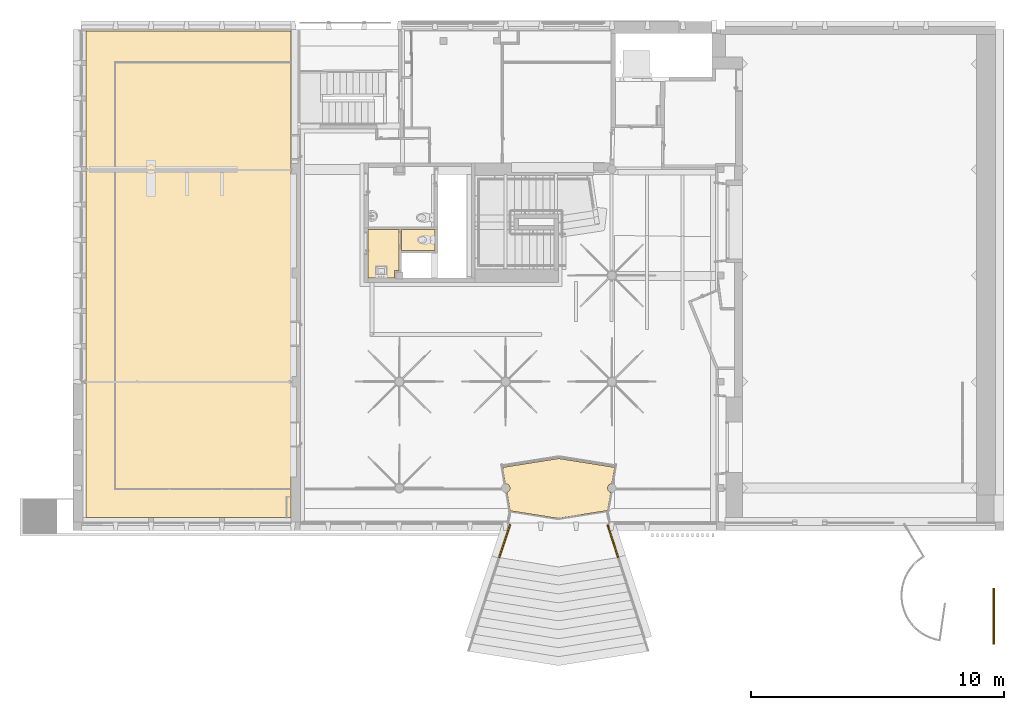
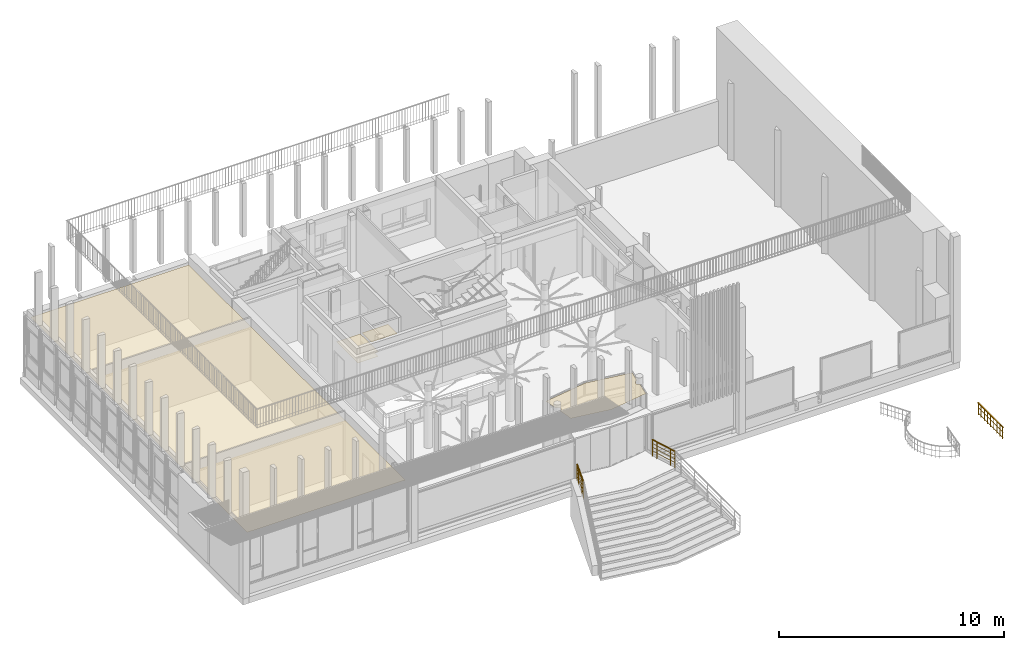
# One storey, part 51 of 65: 4 coverings, 3 railings.
"""IFC4 building model written with IfcOpenShell, lengths in metres."""

from ifc_helpers import new_model, entity, si_unit, converted_unit, derived_unit, direction, frame, origin, place, context, subcontext, project, spatial, indexed_curve, outline, extrude, polygons, material, layer, layer_set, constituent, constituent_set, type_object, element, save


model = new_model("IFC4")

# Units and contexts
model_context = context("Model", 3, precision=1e-05, world=origin(), true_north=direction((6.12303176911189e-17, 1.0)))
body_context = subcontext(model_context, "Body", "Model", "MODEL_VIEW")
ifc_project = project(units=[si_unit("LENGTHUNIT", "METRE"), si_unit("AREAUNIT", "SQUARE_METRE"), si_unit("VOLUMEUNIT", "CUBIC_METRE"), converted_unit("PLANEANGLEUNIT", "DEGREE", entity("IfcRatioMeasure", 0.0174532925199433), si_unit("PLANEANGLEUNIT", "RADIAN"), dimensions=[0, 0, 0, 0, 0, 0, 0]), si_unit("MASSUNIT", "GRAM", prefix="KILO"), derived_unit("MASSDENSITYUNIT", [(si_unit("MASSUNIT", "GRAM", prefix="KILO"), 1), (si_unit("LENGTHUNIT", "METRE"), -3)]), derived_unit("MOMENTOFINERTIAUNIT", [(si_unit("LENGTHUNIT", "METRE"), 4)]), si_unit("TIMEUNIT", "SECOND"), si_unit("FREQUENCYUNIT", "HERTZ"), si_unit("THERMODYNAMICTEMPERATUREUNIT", "DEGREE_CELSIUS"), derived_unit("THERMALTRANSMITTANCEUNIT", [(si_unit("MASSUNIT", "GRAM", prefix="KILO"), 1), (si_unit("THERMODYNAMICTEMPERATUREUNIT", "KELVIN"), -1), (si_unit("TIMEUNIT", "SECOND"), -3)]), derived_unit("VOLUMETRICFLOWRATEUNIT", [(si_unit("LENGTHUNIT", "METRE"), 3), (si_unit("TIMEUNIT", "SECOND"), -1)]), si_unit("ELECTRICCURRENTUNIT", "AMPERE"), si_unit("ELECTRICVOLTAGEUNIT", "VOLT"), si_unit("POWERUNIT", "WATT"), si_unit("FORCEUNIT", "NEWTON", prefix="KILO"), si_unit("ILLUMINANCEUNIT", "LUX"), si_unit("LUMINOUSFLUXUNIT", "LUMEN"), si_unit("LUMINOUSINTENSITYUNIT", "CANDELA"), derived_unit("USERDEFINED", [(si_unit("MASSUNIT", "GRAM", prefix="KILO"), -1), (si_unit("LENGTHUNIT", "METRE"), -2), (si_unit("TIMEUNIT", "SECOND"), 3), (si_unit("LUMINOUSFLUXUNIT", "LUMEN"), 1)]), derived_unit("LINEARVELOCITYUNIT", [(si_unit("LENGTHUNIT", "METRE"), 1), (si_unit("TIMEUNIT", "SECOND"), -1)]), si_unit("PRESSUREUNIT", "PASCAL"), derived_unit("USERDEFINED", [(si_unit("LENGTHUNIT", "METRE"), -2), (si_unit("MASSUNIT", "GRAM", prefix="KILO"), 1), (si_unit("TIMEUNIT", "SECOND"), -2)]), derived_unit("LINEARFORCEUNIT", [(si_unit("MASSUNIT", "GRAM", prefix="KILO"), 1), (si_unit("LENGTHUNIT", "METRE"), 1), (si_unit("TIMEUNIT", "SECOND"), -2), (si_unit("LENGTHUNIT", "METRE"), -1)]), derived_unit("PLANARFORCEUNIT", [(si_unit("MASSUNIT", "GRAM", prefix="KILO"), 1), (si_unit("LENGTHUNIT", "METRE"), 1), (si_unit("TIMEUNIT", "SECOND"), -2), (si_unit("LENGTHUNIT", "METRE"), -2)])], contexts=[model_context])

# Site, building, storey
site_placement = place(None, origin())
site = spatial("IfcSite", under=ifc_project, at=site_placement, Name="Default", CompositionType="ELEMENT")
building_placement = place(site_placement, origin())
building = spatial("IfcBuilding", under=site, at=building_placement, Name="HOTEL CONSULAIRE BOULOGNE SUR MER", CompositionType="ELEMENT")
storey_placement = place(building_placement, origin())
storey = spatial("IfcBuildingStorey", under=building, at=storey_placement, Name="Niveau 0", CompositionType="ELEMENT", Elevation=1.31981936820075e-13)

# Coverings
ifc_material_1 = material(Name="Faux-plafond - Trame 600 x 600", Category="Divers")
ifc_layer = layer(ifc_material_1, 0.0, Name="Faux-plafond - Trame 600 x 600", Category="Divers")
ifc_layer_set = layer_set([ifc_layer], Name="Plafond de base:Plafond 600 mm x 1200 mm")
covering_type_1 = type_object("IfcCoveringType", Name="Plafond de base:Plafond 600 mm x 1200 mm", PredefinedType="CEILING")
covering_1_placement = place(storey_placement, frame((-13.6190998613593, -29.3880671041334, 2.9147)))
element("IfcCovering", 1, at=covering_1_placement, inside=storey, type_object=covering_type_1, material=ifc_layer_set, Name="Plafond de base:Plafond 600 mm x 1200 mm", ObjectType="Plafond de base:Plafond 600 mm x 1200 mm", PredefinedType="CEILING", context=body_context, shape_type="Tessellation", body=[
    polygons([(3.68174823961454e-14, 19.2377429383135, 1.27852954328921e-16), (0.0, 2.59888111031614e-14, 1.27852954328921e-16), (8.10932668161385, 0.0, 1.27852954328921e-16), (8.10932668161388, 19.2377429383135, 1.27852954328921e-16)], [[[1, 2, 3, 4]]], closed=True),
])
covering_type_2 = type_object("IfcCoveringType", Name="Plafond de base:Plafond 600 mm x 1200 mm", PredefinedType="CEILING")
covering_2_placement = place(storey_placement, frame((-2.46935158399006, -19.9149143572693, 2.4484)))
element("IfcCovering", 2, at=covering_2_placement, inside=storey, type_object=covering_type_2, material=ifc_layer_set, Name="Plafond de base:Plafond 600 mm x 1200 mm", ObjectType="Plafond de base:Plafond 600 mm x 1200 mm", PredefinedType="CEILING", context=body_context, shape_type="Tessellation", body=[
    polygons([(1.04878165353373, 0.0, 1.27852954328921e-16), (1.04878165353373, 0.295000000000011, 1.27852954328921e-16), (1.22700709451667, 0.295000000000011, 1.27852954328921e-16), (1.22700709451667, 1.91235410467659, 1.27852954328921e-16), (3.24860138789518e-15, 1.9123541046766, 1.27852954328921e-16), (0.0, 8.66293703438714e-15, 1.27852954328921e-16)], [[[5, 6, 1, 2, 3, 4]]], closed=True),
])
covering_type_3 = type_object("IfcCoveringType", Name="Plafond de base:Plafond 600 mm x 1200 mm", PredefinedType="CEILING")
covering_3_placement = place(storey_placement, frame((-1.15234448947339, -18.8327095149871, 2.4674)))
element("IfcCovering", 3, at=covering_3_placement, inside=storey, type_object=covering_type_3, material=ifc_layer_set, Name="Plafond de base:Plafond 600 mm x 1200 mm", ObjectType="Plafond de base:Plafond 600 mm x 1200 mm", PredefinedType="CEILING", context=body_context, shape_type="Tessellation", body=[
    polygons([(1.08286712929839e-15, 0.83014926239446, 1.27852954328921e-16), (1.35358391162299e-16, 2.16573425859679e-15, 1.27852954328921e-16), (1.32461268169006, 0.0, 1.27852954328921e-16), (1.32461268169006, 0.830149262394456, 1.27852954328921e-16)], [[[1, 2, 3, 4]]], closed=True),
])
covering_type_4 = type_object("IfcCoveringType", Name="Plafond de base:Plafond 600 mm x 1200 mm", PredefinedType="CEILING")
covering_4_placement = place(storey_placement, frame((2.8519227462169, -29.4124966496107, 3.0577)))
element("IfcCovering", 4, at=covering_4_placement, inside=storey, type_object=covering_type_4, material=ifc_layer_set, Name="Plafond de base:Plafond 600 mm x 1200 mm", ObjectType="Plafond de base:Plafond 600 mm x 1200 mm", PredefinedType="CEILING", context=body_context, shape_type="Tessellation", body=[
    polygons([(2.19039195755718, 0.0, 1.27852954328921e-16), (4.14721888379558, 0.309930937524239, 1.27852954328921e-16), (4.2746355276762, 1.03254663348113, 1.27852954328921e-16), (4.23381001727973, 1.04961976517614, 1.27852954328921e-16), (4.19877404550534, 1.07665113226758, 1.27852954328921e-16), (4.17190158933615, 1.11180913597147, 1.27852954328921e-16), (4.15501348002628, 1.15271153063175, 1.27852954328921e-16), (4.14925402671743, 1.19658684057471, 1.27852954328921e-16), (4.15485756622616, 1.23987429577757, 1.27852954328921e-16), (4.17129877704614, 1.28030806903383, 1.27852954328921e-16), (4.1974937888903, 1.31522260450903, 1.27852954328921e-16), (4.23171572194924, 1.34231619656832, 1.27852954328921e-16), (4.27170852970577, 1.35980272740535, 1.27852954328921e-16), (4.3148357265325, 1.36652941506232, 1.27852954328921e-16), (4.42910804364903, 2.0145999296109, 1.27852954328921e-16), (2.21833264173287, 2.36475235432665, 1.27852954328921e-16), (-5.41433564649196e-16, 2.01340298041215, 1.27852954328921e-16), (0.105644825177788, 1.36604122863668, 1.27852954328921e-16), (0.145617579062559, 1.36453017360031, 1.27852954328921e-16), (0.1841306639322, 1.3537206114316, 1.27852954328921e-16), (0.219051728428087, 1.3342110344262, 1.27852954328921e-16), (0.248447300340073, 1.30708162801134, 1.27852954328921e-16), (0.270689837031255, 1.2738344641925, 1.27852954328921e-16), (0.284547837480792, 1.23631033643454, 1.27852954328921e-16), (0.289254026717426, 1.19658684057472, 1.27852954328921e-16), (0.284057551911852, 1.15487595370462, 1.27852954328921e-16), (0.26878581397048, 1.11571506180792, 1.27852954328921e-16), (0.244372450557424, 1.08149826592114, 1.27852954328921e-16), (0.212309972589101, 1.05431740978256, 1.27852954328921e-16), (0.174558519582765, 1.03583419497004, 1.27852954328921e-16), (0.296987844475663, 0.299885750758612, 1.27852954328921e-16)], [[[29, 30, 31, 1, 2, 3, 4, 5, 6, 7, 8, 9, 10, 11, 12, 13, 14, 15, 16, 17, 18, 19, 20, 21, 22, 23, 24, 25, 26, 27, 28]]], closed=True),
])

# Railings
ifc_material_2 = material(Name="Peinture - Grise", Category="Peinture")
ifc_constituent_1 = constituent(ifc_material_2, Name="Peinture - Grise", Category="Matériaux")
ifc_material_3 = material(Name="Acier, finition peinture, bleu", Category="Métal")
ifc_constituent_2 = constituent(ifc_material_3, Name="Acier, finition peinture, bleu", Category="Matériaux")
ifc_constituent_set = constituent_set(constituents=[ifc_constituent_1, ifc_constituent_2], Name="MaterialConstituentSet")
railing_1_placement = place(storey_placement, frame((22.2217025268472, -34.4048232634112, -1.56548990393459)))
element("IfcRailing", 5, at=railing_1_placement, inside=storey, material=ifc_constituent_set, Name="Garde-corps:Type Bateau 3", ObjectType="Garde-corps:Type Bateau 3", PredefinedType="NOTDEFINED", context=body_context, shape_type="SweptSolid", body=[
    extrude(outline(indexed_curve([(-0.00599999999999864, -0.0199999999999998), (0.00600000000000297, -0.0199999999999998), (0.00600000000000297, 0.0199999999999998), (-0.00599999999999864, 0.0199999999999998), (-0.00599999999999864, -0.0199999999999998)], self_intersect=False)), frame((0.0415952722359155, 0.279624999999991, 0.0), z_axis=(0.0, 0.0, 1.0), x_axis=(0.0, 1.0, 0.0)), (0.0, 0.0, 1.0), 0.619846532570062),
    extrude(outline(indexed_curve([(-0.00599999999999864, -0.0199999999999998), (0.00600000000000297, -0.0199999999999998), (0.00600000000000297, 0.0199999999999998), (-0.00599999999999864, 0.0199999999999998), (-0.00599999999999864, -0.0199999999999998)], self_intersect=False)), frame((0.0415952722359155, 0.55924999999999, 0.0), z_axis=(0.0, 0.0, 1.0), x_axis=(0.0, 1.0, 0.0)), (0.0, 0.0, 1.0), 0.619846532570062),
    extrude(outline(indexed_curve([(-0.00599999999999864, -0.0199999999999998), (0.00600000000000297, -0.0199999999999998), (0.00600000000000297, 0.0199999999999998), (-0.00599999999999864, 0.0199999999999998), (-0.00599999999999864, -0.0199999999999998)], self_intersect=False)), frame((0.0415952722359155, 0.838874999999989, 0.0), z_axis=(0.0, 0.0, 1.0), x_axis=(0.0, 1.0, 0.0)), (0.0, 0.0, 1.0), 0.619846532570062),
    extrude(outline(indexed_curve([(-0.00599999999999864, -0.0199999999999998), (0.00600000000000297, -0.0199999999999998), (0.00600000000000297, 0.0199999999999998), (-0.00599999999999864, 0.0199999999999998), (-0.00599999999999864, -0.0199999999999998)], self_intersect=False)), frame((0.0415952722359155, 1.11849999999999, 0.0), z_axis=(0.0, 0.0, 1.0), x_axis=(0.0, 1.0, 0.0)), (0.0, 0.0, 1.0), 0.619846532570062),
    extrude(outline(indexed_curve([(-0.00600000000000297, -0.0199999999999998), (0.00599999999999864, -0.0199999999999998), (0.00599999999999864, 0.0199999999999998), (-0.00600000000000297, 0.0199999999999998), (-0.00600000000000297, -0.0199999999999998)], self_intersect=False)), frame((0.0415952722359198, 1.398125, 0.0), z_axis=(0.0, 0.0, 1.0), x_axis=(0.0, 1.0, 0.0)), (0.0, 0.0, 1.0), 0.619846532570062),
    extrude(outline(indexed_curve([(-0.00599999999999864, -0.0199999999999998), (0.00600000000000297, -0.0199999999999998), (0.00600000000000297, 0.0199999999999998), (-0.00599999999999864, 0.0199999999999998), (-0.00599999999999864, -0.0199999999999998)], self_intersect=False)), frame((0.0415952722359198, 1.67774999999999, 0.0), z_axis=(0.0, 0.0, 1.0), x_axis=(0.0, 1.0, 0.0)), (0.0, 0.0, 1.0), 0.619846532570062),
    extrude(outline(indexed_curve([(-0.00600000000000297, -0.0199999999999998), (0.00599999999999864, -0.0199999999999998), (0.00599999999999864, 0.0199999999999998), (-0.00600000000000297, 0.0199999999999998), (-0.00600000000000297, -0.0199999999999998)], self_intersect=False)), frame((0.0415952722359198, 1.95737499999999, 0.0), z_axis=(0.0, 0.0, 1.0), x_axis=(0.0, 1.0, 0.0)), (0.0, 0.0, 1.0), 0.619846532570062),
    extrude(outline(indexed_curve([(-0.00600000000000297, -0.0199999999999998), (0.00599999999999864, -0.0199999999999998), (0.00599999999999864, 0.0199999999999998), (-0.00600000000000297, 0.0199999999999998), (-0.00600000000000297, -0.0199999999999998)], self_intersect=False)), frame((0.0415952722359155, 0.0499999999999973, 0.0), z_axis=(0.0, 0.0, 1.0), x_axis=(0.0, 1.0, 0.0)), (0.0, 0.0, 1.0), 0.619846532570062),
    extrude(outline(indexed_curve([(-0.00599999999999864, -0.0199999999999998), (0.00600000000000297, -0.0199999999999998), (0.00600000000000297, 0.0199999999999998), (-0.00599999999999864, 0.0199999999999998), (-0.00599999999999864, -0.0199999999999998)], self_intersect=False)), frame((0.0415952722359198, 2.18699999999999, 0.0), z_axis=(0.0, 0.0, 1.0), x_axis=(0.0, 1.0, 0.0)), (0.0, 0.0, 1.0), 0.619846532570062),
    extrude(outline(indexed_curve([(0.0, 0.0150000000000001), (-0.00463525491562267, 0.0142658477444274), (-0.00881677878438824, 0.0121352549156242), (-0.0121352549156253, 0.00881677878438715), (-0.0142658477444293, 0.00463525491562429), (-0.0150000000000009, 0.0), (-0.0142658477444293, -0.00463525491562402), (-0.0121352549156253, -0.00881677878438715), (-0.00881677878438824, -0.0121352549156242), (-0.00463525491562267, -0.0142658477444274), (0.0, -0.0150000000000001), (0.00463525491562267, -0.0142658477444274), (0.00881677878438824, -0.0121352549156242), (0.0121352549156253, -0.00881677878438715), (0.0142658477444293, -0.00463525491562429), (0.0150000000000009, 0.0), (0.0142658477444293, 0.00463525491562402), (0.0121352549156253, 0.00881677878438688), (0.00881677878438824, 0.0121352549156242), (0.00463525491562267, 0.0142658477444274), (0.0, 0.0150000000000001)], self_intersect=False)), frame((0.0415952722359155, 0.0, 0.0850000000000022), z_axis=(0.0, 1.0, 0.0), x_axis=(-1.0, 0.0, 0.0)), (0.0, 0.0, 1.0), 2.237),
    extrude(outline(indexed_curve([(0.0, 0.015), (-0.00463525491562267, 0.0142658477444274), (-0.00881677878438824, 0.0121352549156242), (-0.0121352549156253, 0.00881677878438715), (-0.0142658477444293, 0.00463525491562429), (-0.0150000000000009, 0.0), (-0.0142658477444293, -0.00463525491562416), (-0.0121352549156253, -0.00881677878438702), (-0.00881677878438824, -0.0121352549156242), (-0.00463525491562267, -0.0142658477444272), (0.0, -0.015), (0.00463525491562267, -0.0142658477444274), (0.00881677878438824, -0.0121352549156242), (0.0121352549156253, -0.00881677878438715), (0.0142658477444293, -0.00463525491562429), (0.0150000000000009, -1.35358391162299e-16), (0.0142658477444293, 0.00463525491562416), (0.0121352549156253, 0.00881677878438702), (0.00881677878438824, 0.0121352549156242), (0.00463525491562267, 0.0142658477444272), (0.0, 0.015)], self_intersect=False)), frame((0.0415952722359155, 0.0, 0.385000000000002), z_axis=(0.0, 1.0, 0.0), x_axis=(-1.0, 0.0, 0.0)), (0.0, 0.0, 1.0), 2.237),
    extrude(outline(indexed_curve([(-0.0116456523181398, -0.0382672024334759), (0.00196026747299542, -0.0382672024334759), (0.0151779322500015, -0.0306879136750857), (0.0253894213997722, -0.0170305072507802), (0.0287004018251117, -0.00873423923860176), (0.0309110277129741, 0.00873423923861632), (0.0269993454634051, 0.024472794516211), (0.0177401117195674, 0.0353642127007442), (0.0116456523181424, 0.0382672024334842), (-0.00196026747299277, 0.0382672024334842), (-0.0151779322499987, 0.0306879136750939), (-0.0253894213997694, 0.0170305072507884), (-0.0287004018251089, 0.00873423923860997), (-0.0309110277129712, -0.00873423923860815), (-0.0269993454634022, -0.0244727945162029), (-0.0177401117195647, -0.035364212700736), (-0.0116456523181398, -0.0382672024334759)], self_intersect=False)), frame((0.0415952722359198, 0.0, 0.650000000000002), z_axis=(0.0, 1.0, 0.0), x_axis=(-0.291141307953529, 0.0, -0.956680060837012)), (0.0, 0.0, 1.0), 2.237),
])
ifc_material_4 = material(Name="Métal - Acier inoxydable, poli", Category="Métal")
railing_2_placement = place(storey_placement, frame((2.67291542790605, -30.9812972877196, 0.0)))
element("IfcRailing", 6, at=railing_2_placement, inside=storey, material=ifc_material_4, Name="Garde-corps:garde corps d'entrée principale", ObjectType="Garde-corps:garde corps d'entrée principale", PredefinedType="NOTDEFINED", context=body_context, shape_type="SweptSolid", body=[
    extrude(outline(indexed_curve([(-0.0249999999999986, -0.00600000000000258), (0.0250000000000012, -0.00600000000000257), (0.0250000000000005, 0.00599999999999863), (-0.0249999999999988, 0.0059999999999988), (-0.0249999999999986, -0.00600000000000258)], self_intersect=False)), frame((0.132696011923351, 0.293015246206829, 0.0), z_axis=(0.0, 0.0, 1.0), x_axis=(-0.949140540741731, 0.314852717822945, 0.0)), (0.0, 0.0, 1.0), 0.86984653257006),
    extrude(outline(indexed_curve([(-0.0250000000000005, -0.00599999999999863), (0.0249999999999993, -0.00599999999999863), (0.0249999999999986, 0.00600000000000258), (-0.0250000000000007, 0.00600000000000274), (-0.0250000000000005, -0.00599999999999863)], self_intersect=False)), frame((0.384578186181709, 1.05232767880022, 0.0), z_axis=(0.0, 0.0, 1.0), x_axis=(-0.949140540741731, 0.314852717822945, 0.0)), (0.0, 0.0, 1.0), 0.86984653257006),
    extrude(outline(indexed_curve([(-0.0249999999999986, -0.00600000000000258), (0.0250000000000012, -0.00600000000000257), (0.0250000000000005, 0.00599999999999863), (-0.0249999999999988, 0.0059999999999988), (-0.0249999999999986, -0.00600000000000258)], self_intersect=False)), frame((0.0407688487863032, 0.0158958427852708, 0.0), z_axis=(0.0, 0.0, 1.0), x_axis=(-0.949140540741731, 0.314852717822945, 0.0)), (0.0, 0.0, 1.0), 0.86984653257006),
    extrude(outline(indexed_curve([(-0.0249999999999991, -0.00600000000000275), (0.0250000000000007, -0.00600000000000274), (0.0249999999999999, 0.00599999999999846), (-0.0249999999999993, 0.00599999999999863), (-0.0249999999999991, -0.00600000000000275)], self_intersect=False)), frame((0.476505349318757, 1.32944708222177, 0.0), z_axis=(0.0, 0.0, 1.0), x_axis=(-0.949140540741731, 0.314852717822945, 0.0)), (0.0, 0.0, 1.0), 0.86984653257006),
    extrude(outline(indexed_curve([(0.0, 0.00999999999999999), (-0.00309016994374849, 0.00951056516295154), (-0.00587785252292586, 0.00809016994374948), (-0.0080901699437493, 0.00587785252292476), (-0.00951056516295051, 0.0030901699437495), (-0.0100000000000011, 3.38395977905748e-17), (-0.00951056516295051, -0.00309016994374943), (-0.0080901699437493, -0.00587785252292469), (-0.00587785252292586, -0.00809016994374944), (-0.00309016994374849, -0.0095105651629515), (0.0, -0.00999999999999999), (0.00309016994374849, -0.00951056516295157), (0.00587785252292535, -0.00809016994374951), (0.0080901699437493, -0.00587785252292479), (0.00951056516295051, -0.00309016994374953), (0.0100000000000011, -6.76791955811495e-17), (0.00951056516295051, 0.00309016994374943), (0.0080901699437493, 0.00587785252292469), (0.00587785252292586, 0.00809016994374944), (0.00309016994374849, 0.0095105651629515), (0.0, 0.00999999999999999)], self_intersect=False)), frame((0.0401391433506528, 0.013997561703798, 0.290000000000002), z_axis=(0.314852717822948, 0.94914054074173, 0.0), x_axis=(-0.94914054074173, 0.314852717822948, 0.0)), (0.0, 0.0, 1.0), 1.38793755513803),
    extrude(outline(indexed_curve([(0.0, 0.01), (-0.00309016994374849, 0.00951056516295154), (-0.00587785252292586, 0.00809016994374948), (-0.0080901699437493, 0.00587785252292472), (-0.00951056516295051, 0.00309016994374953), (-0.0100000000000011, 0.0), (-0.00951056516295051, -0.00309016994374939), (-0.0080901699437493, -0.00587785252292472), (-0.00587785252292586, -0.00809016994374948), (-0.00309016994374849, -0.00951056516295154), (0.0, -0.01), (0.00309016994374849, -0.00951056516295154), (0.00587785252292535, -0.00809016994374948), (0.0080901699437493, -0.00587785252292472), (0.00951056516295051, -0.00309016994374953), (0.0100000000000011, 0.0), (0.00951056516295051, 0.00309016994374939), (0.0080901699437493, 0.00587785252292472), (0.00587785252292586, 0.00809016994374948), (0.00309016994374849, 0.00951056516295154), (0.0, 0.01)], self_intersect=False)), frame((0.0401391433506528, 0.013997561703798, 0.690000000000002), z_axis=(0.314852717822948, 0.94914054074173, 0.0), x_axis=(-0.94914054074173, 0.314852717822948, 0.0)), (0.0, 0.0, 1.0), 1.38793755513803),
    extrude(outline(indexed_curve([(0.0, 0.01), (-0.00309016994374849, 0.00951056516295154), (-0.00587785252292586, 0.00809016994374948), (-0.0080901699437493, 0.00587785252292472), (-0.00951056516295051, 0.00309016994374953), (-0.0100000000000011, 0.0), (-0.00951056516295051, -0.00309016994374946), (-0.0080901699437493, -0.00587785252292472), (-0.00587785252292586, -0.00809016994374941), (-0.00309016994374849, -0.00951056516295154), (0.0, -0.01), (0.00309016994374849, -0.00951056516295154), (0.00587785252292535, -0.00809016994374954), (0.0080901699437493, -0.00587785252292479), (0.00951056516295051, -0.00309016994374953), (0.0100000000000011, -6.76791955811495e-17), (0.00951056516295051, 0.00309016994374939), (0.0080901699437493, 0.00587785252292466), (0.00587785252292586, 0.00809016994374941), (0.00309016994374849, 0.00951056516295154), (0.0, 0.01)], self_intersect=False)), frame((0.0401391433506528, 0.013997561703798, 0.490000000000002), z_axis=(0.314852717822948, 0.94914054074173, 0.0), x_axis=(-0.94914054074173, 0.314852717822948, 0.0)), (0.0, 0.0, 1.0), 1.38793755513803),
    extrude(outline(indexed_curve([(-0.0116456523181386, -0.0382672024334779), (0.00196026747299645, -0.0382672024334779), (0.0151779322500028, -0.0306879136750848), (0.0253894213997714, -0.0170305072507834), (0.028700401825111, -0.00873423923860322), (0.0309110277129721, 0.00873423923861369), (0.0269993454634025, 0.0244727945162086), (0.0177401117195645, 0.0353642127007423), (0.0116456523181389, 0.0382672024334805), (-0.00196026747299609, 0.0382672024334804), (-0.0151779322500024, 0.0306879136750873), (-0.025389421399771, 0.0170305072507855), (-0.0287004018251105, 0.00873423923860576), (-0.0309110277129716, -0.00873423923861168), (-0.0269993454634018, -0.0244727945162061), (-0.017740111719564, -0.0353642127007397), (-0.0116456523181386, -0.0382672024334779)], self_intersect=False)), frame((0.0395608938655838, 0.0141893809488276, 0.900000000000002), z_axis=(0.314852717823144, 0.949140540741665, 0.0), x_axis=(-0.276334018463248, 0.0916666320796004, -0.956680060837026)), (0.0, 0.0, 1.0), 1.38793755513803),
])
railing_3_placement = place(storey_placement, frame((6.96057995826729, -30.9792158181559, 0.0)))
element("IfcRailing", 7, at=railing_3_placement, inside=storey, material=ifc_material_4, Name="Garde-corps:garde corps d'entrée principale", ObjectType="Garde-corps:garde corps d'entrée principale", PredefinedType="NOTDEFINED", context=body_context, shape_type="SweptSolid", body=[
    extrude(outline(indexed_curve([(-0.0249999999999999, -0.00600000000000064), (0.0250000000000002, -0.00600000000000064), (0.0249999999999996, 0.00599999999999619), (-0.0249999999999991, 0.00600000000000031), (-0.0249999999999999, -0.00600000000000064)], self_intersect=False)), frame((0.373241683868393, 0.28414334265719, 0.0), z_axis=(0.0, 0.0, 1.0), x_axis=(-0.95162753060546, -0.307254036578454, 0.0)), (0.0, 0.0, 1.0), 0.86984653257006),
    extrude(outline(indexed_curve([(-0.0250000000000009, -0.00600000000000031), (0.0249999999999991, -0.00600000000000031), (0.0249999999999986, 0.00599999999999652), (-0.0250000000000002, 0.00600000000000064), (-0.0250000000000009, -0.00600000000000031)], self_intersect=False)), frame((0.12743845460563, 1.04544536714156, 0.0), z_axis=(0.0, 0.0, 1.0), x_axis=(-0.95162753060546, -0.307254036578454, 0.0)), (0.0, 0.0, 1.0), 0.86984653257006),
    extrude(outline(indexed_curve([(-0.0250000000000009, -0.00600000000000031), (0.0249999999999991, -0.00600000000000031), (0.0249999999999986, 0.00599999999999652), (-0.0250000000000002, 0.00600000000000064), (-0.0250000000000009, -0.00600000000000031)], self_intersect=False)), frame((0.459825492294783, 0.0159758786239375, 0.0), z_axis=(0.0, 0.0, 1.0), x_axis=(-0.95162753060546, -0.307254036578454, 0.0)), (0.0, 0.0, 1.0), 0.86984653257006),
    extrude(outline(indexed_curve([(-0.0250000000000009, -0.00600000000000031), (0.0249999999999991, -0.00600000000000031), (0.0249999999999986, 0.00599999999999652), (-0.0250000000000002, 0.00600000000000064), (-0.0250000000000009, -0.00600000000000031)], self_intersect=False)), frame((0.0408546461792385, 1.31361283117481, 0.0), z_axis=(0.0, 0.0, 1.0), x_axis=(-0.95162753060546, -0.307254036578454, 0.0)), (0.0, 0.0, 1.0), 0.86984653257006),
    extrude(outline(indexed_curve([(0.0, -0.00999999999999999), (0.00309016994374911, -0.00951056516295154), (0.00587785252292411, -0.00809016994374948), (0.00809016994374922, -0.00587785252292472), (0.00951056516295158, -0.00309016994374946), (0.0100000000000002, 0.0), (0.00951056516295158, 0.00309016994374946), (0.00809016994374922, 0.00587785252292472), (0.00587785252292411, 0.00809016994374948), (0.00309016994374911, 0.00951056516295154), (0.0, 0.00999999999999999), (-0.00309016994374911, 0.00951056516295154), (-0.00587785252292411, 0.00809016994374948), (-0.00809016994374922, 0.00587785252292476), (-0.00951056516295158, 0.0030901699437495), (-0.0100000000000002, 3.38395977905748e-17), (-0.00951056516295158, -0.00309016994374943), (-0.00809016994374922, -0.00587785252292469), (-0.00587785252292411, -0.00809016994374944), (-0.00309016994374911, -0.0095105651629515), (0.0, -0.00999999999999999)], self_intersect=False)), frame((0.0402401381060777, 1.31551608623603, 0.290000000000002), z_axis=(0.307254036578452, -0.951627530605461, 0.0), x_axis=(-0.951627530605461, -0.307254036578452, 0.0)), (0.0, 0.0, 1.0), 1.36759753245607),
    extrude(outline(indexed_curve([(0.0, -0.01), (0.00309016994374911, -0.00951056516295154), (0.00587785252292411, -0.00809016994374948), (0.00809016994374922, -0.00587785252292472), (0.00951056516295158, -0.00309016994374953), (0.0100000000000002, 0.0), (0.00951056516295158, 0.00309016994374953), (0.00809016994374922, 0.00587785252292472), (0.00587785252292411, 0.00809016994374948), (0.00309016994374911, 0.00951056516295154), (0.0, 0.01), (-0.00309016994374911, 0.00951056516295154), (-0.00587785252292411, 0.00809016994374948), (-0.00809016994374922, 0.00587785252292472), (-0.00951056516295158, 0.00309016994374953), (-0.0100000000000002, 0.0), (-0.00951056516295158, -0.00309016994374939), (-0.00809016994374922, -0.00587785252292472), (-0.00587785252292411, -0.00809016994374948), (-0.00309016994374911, -0.00951056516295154), (0.0, -0.01)], self_intersect=False)), frame((0.0402401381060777, 1.31551608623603, 0.690000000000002), z_axis=(0.307254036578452, -0.951627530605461, 0.0), x_axis=(-0.951627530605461, -0.307254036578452, 0.0)), (0.0, 0.0, 1.0), 1.36759753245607),
    extrude(outline(indexed_curve([(0.0, -0.01), (0.00309016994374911, -0.00951056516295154), (0.00587785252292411, -0.00809016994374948), (0.00809016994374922, -0.00587785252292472), (0.00951056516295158, -0.00309016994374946), (0.0100000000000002, 0.0), (0.00951056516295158, 0.00309016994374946), (0.00809016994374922, 0.00587785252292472), (0.00587785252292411, 0.00809016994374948), (0.00309016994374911, 0.00951056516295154), (0.0, 0.01), (-0.00309016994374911, 0.00951056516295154), (-0.00587785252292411, 0.00809016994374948), (-0.00809016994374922, 0.00587785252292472), (-0.00951056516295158, 0.00309016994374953), (-0.0100000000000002, 0.0), (-0.00951056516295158, -0.00309016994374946), (-0.00809016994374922, -0.00587785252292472), (-0.00587785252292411, -0.00809016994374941), (-0.00309016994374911, -0.00951056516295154), (0.0, -0.01)], self_intersect=False)), frame((0.0402401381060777, 1.31551608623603, 0.490000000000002), z_axis=(0.307254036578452, -0.951627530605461, 0.0), x_axis=(-0.951627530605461, -0.307254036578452, 0.0)), (0.0, 0.0, 1.0), 1.36759753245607),
    extrude(outline(indexed_curve([(-0.0116456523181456, -0.0382672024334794), (0.0019602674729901, -0.0382672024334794), (0.015177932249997, -0.0306879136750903), (0.0253894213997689, -0.0170305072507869), (0.028700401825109, -0.00873423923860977), (0.030911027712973, 0.00873423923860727), (0.0269993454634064, 0.0244727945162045), (0.0177401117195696, 0.0353642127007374), (0.011645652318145, 0.0382672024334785), (-0.00196026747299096, 0.0382672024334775), (-0.0151779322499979, 0.0306879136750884), (-0.0253894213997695, 0.017030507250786), (-0.0287004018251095, 0.00873423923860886), (-0.0309110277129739, -0.00873423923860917), (-0.0269993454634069, -0.0244727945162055), (-0.01774011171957, -0.0353642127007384), (-0.0116456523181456, -0.0382672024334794)], self_intersect=False)), frame((0.0396603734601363, 1.31532889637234, 0.900000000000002), z_axis=(0.307254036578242, -0.951627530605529, 0.0), x_axis=(-0.277058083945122, -0.0894543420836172, 0.956680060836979)), (0.0, 0.0, 1.0), 1.36759753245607),
])

save(model, "model.ifc")
